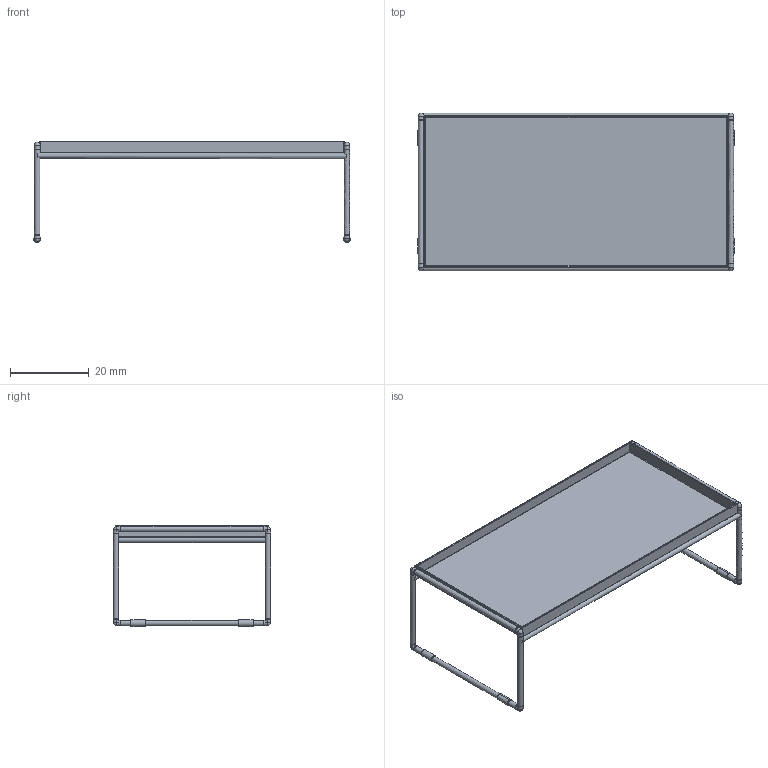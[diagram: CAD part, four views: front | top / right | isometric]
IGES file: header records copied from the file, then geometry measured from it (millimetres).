
Global section: file name: D:\3ddFactory\3D_Kartell\Ex-novo_3dd\trays\4410\Trays_3d_Piero Lissoni_Kartell.igs; native system: Rhinoceros ( Mar 10 2014 ); preprocessor: Trout Lake IGES 012 Mar 10 2014; date: 180215.154445; units: millimetre
Bounding box: 80.3 x 40 x 25.65 mm (x, y, z)
Surface area: 9859.5 mm2 (no closed solid volume)
Topology: 0 solids, 0 shells, 178 faces, 2237 edges, 2132 vertices
Faces by surface type: bspline 178
